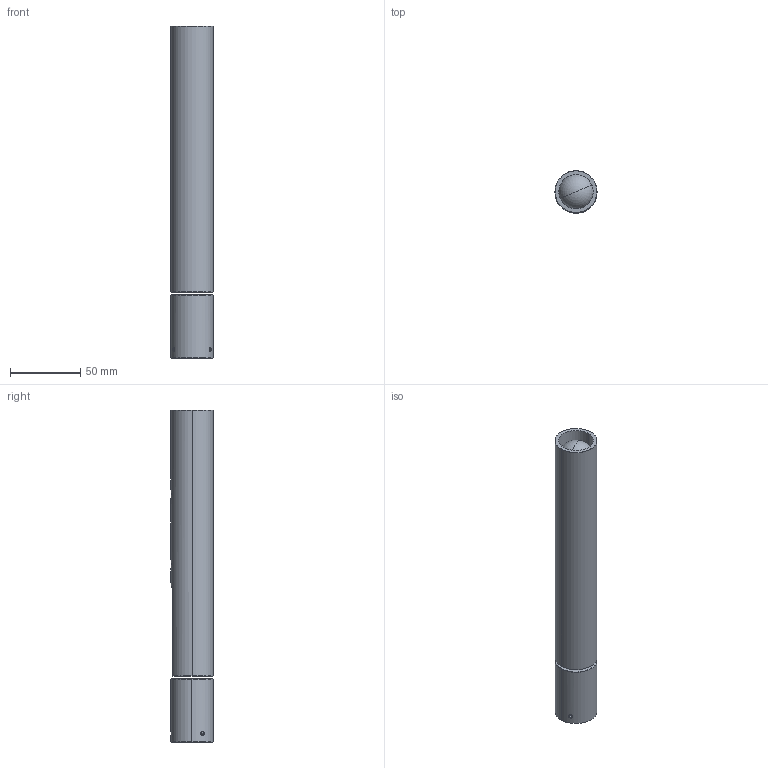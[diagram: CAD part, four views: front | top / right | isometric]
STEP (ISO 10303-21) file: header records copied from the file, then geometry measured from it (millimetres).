
FILE_DESCRIPTION (( 'STEP AP203' ), '1' );
FILE_NAME ('Ego.STEP', '2019-07-26T09:29:20', ( '' ), ( '' ), 'SwSTEP 2.0', 'SolidWorks 2019', '' );
FILE_SCHEMA (( 'CONFIG_CONTROL_DESIGN' ));
Length unit declared in the file: millimetre
Products named in the file (9): WSCM2A0062-0200-01_XX.STEP; socket set screw cone point_iso_ISO 4027 - M3 x 4-N.STEP; WSCM2A0065-0328-00_XX.STEP; hex thin nut fine gradeab_iso_MC-D006-XX-FE-00.STEP; WSCM2A0060-0200-00_XX.STEP; WSR1PAXO-01-------.STEP; serrated lock washer 1_din_DIN 6798-A8.4.STEP; Ego; Ego.STEP
Assembly tree (8 placements, depth 3):
  Ego
    Ego.STEP
      WSCM2A0062-0200-01_XX.STEP
      WSCM2A0060-0200-00_XX.STEP
      serrated lock washer 1_din_DIN 6798-A8.4.STEP
      hex thin nut fine gradeab_iso_MC-D006-XX-FE-00.STEP
      socket set screw cone point_iso_ISO 4027 - M3 x 4-N.STEP
      WSCM2A0065-0328-00_XX.STEP
      WSR1PAXO-01-------.STEP
Bounding box: 30 x 30 x 237.1 mm (x, y, z)
Volume: 40022.1 mm3; surface area: 46778.8 mm2
Topology: 7 solids, 7 shells, 193 faces, 499 edges, 290 vertices
Faces by surface type: plane 63, cone 56, cylinder 41, bspline 29, torus 4
Entity records: 9030 total; most frequent: CARTESIAN_POINT 3705, ORIENTED_EDGE 934, DIRECTION 862, EDGE_CURVE 467, AXIS2_PLACEMENT_3D 328, VERTEX_POINT 290, EDGE_LOOP 219, VECTOR 206
